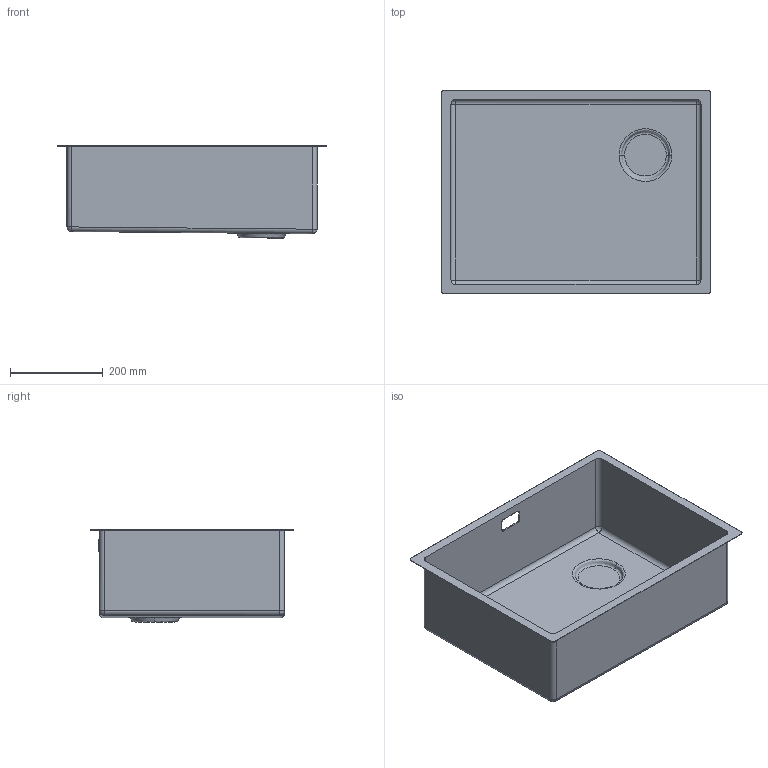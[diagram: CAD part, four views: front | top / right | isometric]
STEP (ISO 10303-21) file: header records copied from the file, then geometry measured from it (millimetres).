
FILE_DESCRIPTION(/* description */ (''),/* implementation_level */ '2;1');
FILE_NAME(/* name */ 'D5844H',/* time_stamp */ '2023-12-01T08:57:09+08:00',/* author */ (''),/* organization */ (''),/* preprocessor_version */ 'ST-DEVELOPER v16.5',/* originating_system */ '',/* authorisation */ '');
FILE_SCHEMA (('AUTOMOTIVE_DESIGN'));
Length unit declared in the file: millimetre
Products named in the file (1): Document
Bounding box: 580 x 440 x 199.31 mm (x, y, z)
Surface area: 598927.4 mm2 (no closed solid volume)
Topology: 0 solids, 1 shells, 31 faces, 72 edges, 44 vertices
Faces by surface type: bspline 22, plane 9
Entity records: 1660 total; most frequent: CARTESIAN_POINT 1215, ORIENTED_EDGE 134, EDGE_CURVE 72, VERTEX_POINT 44, B_SPLINE_CURVE_WITH_KNOTS 40, EDGE_LOOP 34, ADVANCED_FACE 31, FACE_OUTER_BOUND 31
